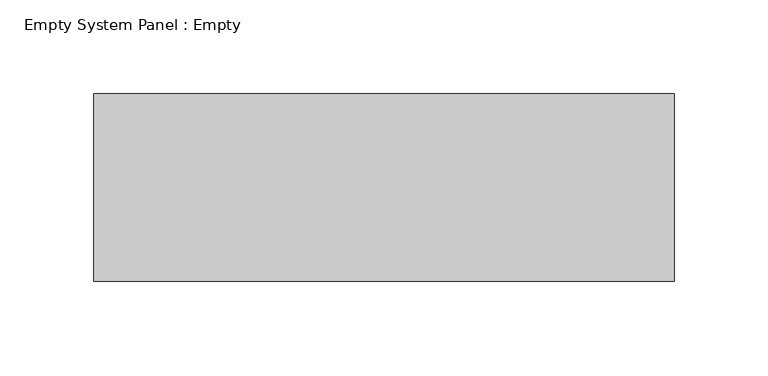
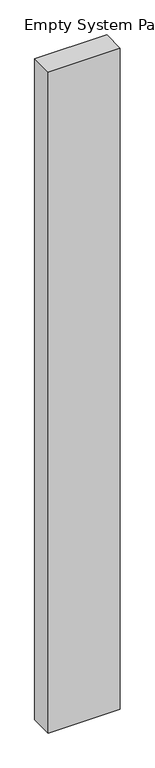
"""IFC4 building model written with IfcOpenShell, lengths in millimetres: plate geometry, Empty System Panel : Empty."""

from ifc_helpers import new_model, si_unit, origin, origin_with_axes, place, context, project, spatial, polyline, outline, extrude, source, transform, mapped, element, save


def empty_system_panel_empty_e9c97825(model_context):
    return source(origin(), model_context, "Body", "SweptSolid", [
        extrude(outline(polyline([(154.8474567, -50.0), (-154.8474567, -50.0), (-154.8474567, 50.0), (154.8474567, 50.0), (154.8474567, -50.0)])), origin_with_axes(), (0.0, 0.0, 1.0), 3000.0),
    ])


if __name__ == "__main__":
    model = new_model("IFC4")
    model_context = context("Model", 3, world=origin())
    ifc_project = project(units=[si_unit("LENGTHUNIT", "METRE", prefix="MILLI")], contexts=[model_context])
    site = spatial("IfcSite", under=ifc_project)
    building = spatial("IfcBuilding", under=site)
    placement = place(None, origin())
    empty_system_panel_empty_shape = empty_system_panel_empty_e9c97825(model_context)
    element("IfcPlate", 1, ObjectType="Empty System Panel : Empty", at=placement, inside=building, context=model_context, shape_type="MappedRepresentation", body=[
        mapped(empty_system_panel_empty_shape, transform((0.0, 0.0, 0.0), x_axis=(1.0, 0.0, 0.0), y_axis=(0.0, 1.0, 0.0), z_axis=(0.0, 0.0, 1.0))),
    ])
    save(model, "model.ifc")
